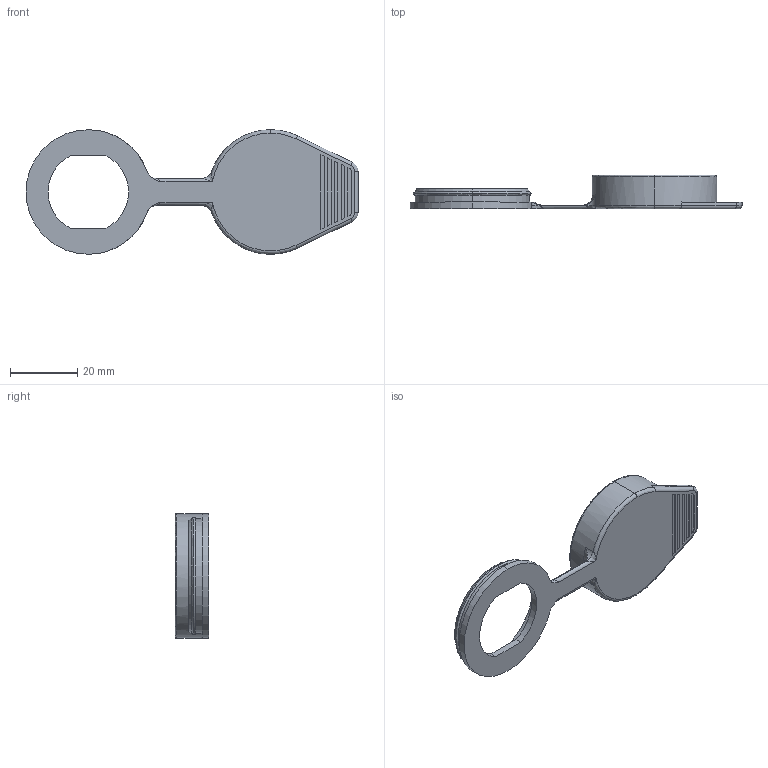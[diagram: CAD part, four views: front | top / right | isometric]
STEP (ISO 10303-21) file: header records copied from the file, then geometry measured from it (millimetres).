
FILE_DESCRIPTION (( 'STEP AP214' ), '1' );
FILE_NAME ('2.904.006.STEP', '2016-08-23T05:56:41', ( 'Krzysiek' ), ( '' ), 'SwSTEP 2.0', 'SolidWorks 2015', '' );
FILE_SCHEMA (( 'AUTOMOTIVE_DESIGN' ));
Length unit declared in the file: millimetre
Products named in the file (1): 2.904.006
Bounding box: 98.62 x 10.01 x 37 mm (x, y, z)
Volume: 5501.3 mm3; surface area: 7444.8 mm2
Topology: 1 solids, 1 shells, 176 faces, 446 edges, 285 vertices
Faces by surface type: plane 95, bspline 46, cylinder 33, cone 2
Entity records: 6398 total; most frequent: CARTESIAN_POINT 2389, ORIENTED_EDGE 888, DIRECTION 708, EDGE_CURVE 444, VERTEX_POINT 285, VECTOR 280, LINE 280, AXIS2_PLACEMENT_3D 214
